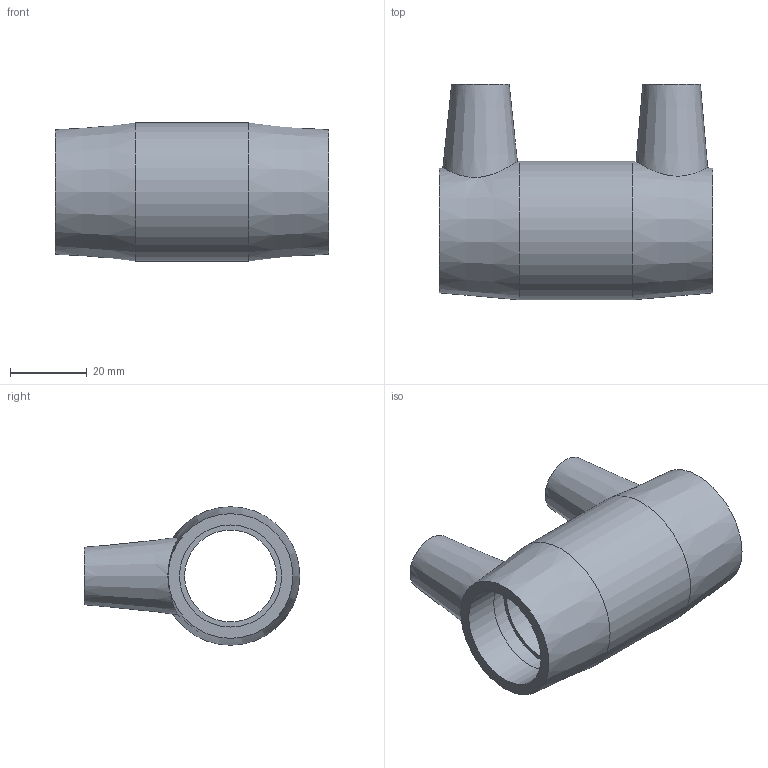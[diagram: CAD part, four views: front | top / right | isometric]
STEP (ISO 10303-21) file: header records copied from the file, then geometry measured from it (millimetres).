
FILE_DESCRIPTION(/* description */ ('PLASSON REDUCING COUPLING ADAPTOR 25-3/4''''IPS'),/* implementation_level */ '2;1');
FILE_NAME(/* name */ 'C:\Dropbox\KIMPROJECTS-Inventor 2019\99-16-3568-Processing Inch\ASTM ElectroFusion 2021\4911N\4911N4025020.ipt.stp',/* time_stamp */ '2021-08-30T09:47:55+03:00',/* author */ ('KIM'),/* organization */ (''),/* preprocessor_version */ 'ST-DEVELOPER v17.2',/* originating_system */ 'Autodesk Inventor 2019',/* authorisation */ '');
FILE_SCHEMA (('AUTOMOTIVE_DESIGN { 1 0 10303 214 3 1 1 }'));
Length unit declared in the file: inch
Products named in the file (1): 4911N4025020
Bounding box: 71.12 x 56.13 x 36.07 mm (x, y, z)
Volume: 39168.9 mm3; surface area: 17993.3 mm2
Topology: 1 solids, 1 shells, 29 faces, 66 edges, 49 vertices
Faces by surface type: plane 12, cylinder 10, cone 7
Full cylindrical faces by diameter (mm): 4 x2, 10 x2, 23.94 x1, 25 x2, 26.6 x2, 36.068 x1
Entity records: 980 total; most frequent: CARTESIAN_POINT 221, DIRECTION 167, ORIENTED_EDGE 132, AXIS2_PLACEMENT_3D 75, EDGE_CURVE 66, VERTEX_POINT 49, CIRCLE 45, EDGE_LOOP 41
